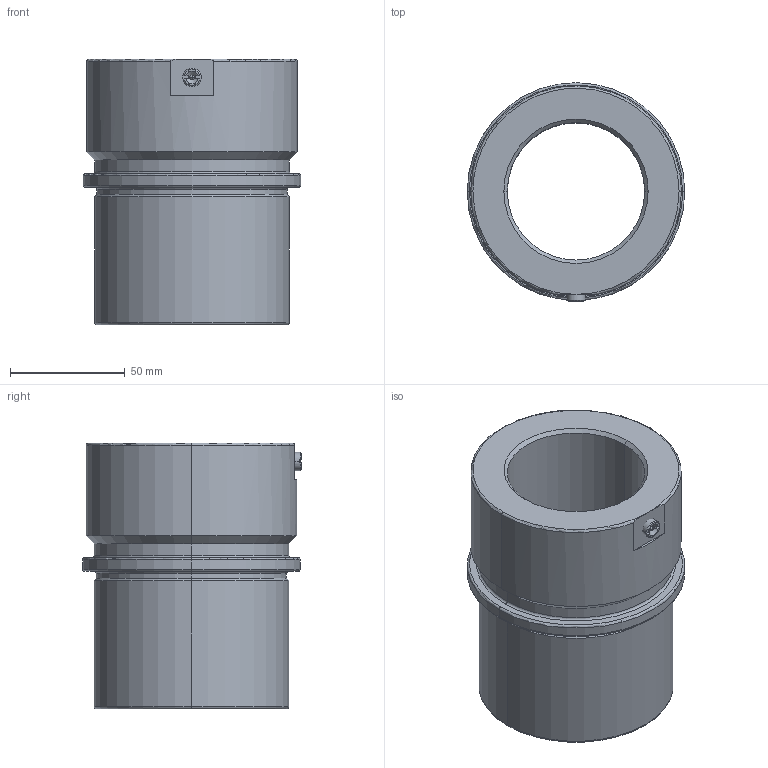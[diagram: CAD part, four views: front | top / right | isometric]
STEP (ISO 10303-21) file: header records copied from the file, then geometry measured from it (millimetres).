
FILE_DESCRIPTION(('CATIA V5 STEP Exchange'),'2;1');
FILE_NAME('C:\Users\Utente\Desktop\IO LAVORO\3D X SITO CF\X SITO\744\744-60.stp','2020-12-23T21:08:45+00:00',('none'),('none'),'CATIA Version 5 Release 20 GA (IN-10)','CATIA V5 STEP AP203','none');
FILE_SCHEMA(('CONFIG_CONTROL_DESIGN'));
Length unit declared in the file: millimetre
Products named in the file (1): 744-60
Bounding box: 95 x 95.5 x 116 mm (x, y, z)
Volume: 378038.8 mm3; surface area: 63766.7 mm2
Topology: 2 solids, 2 shells, 67 faces, 155 edges, 91 vertices
Faces by surface type: cylinder 16, plane 16, cone 16, torus 15, sphere 4
Entity records: 2036 total; most frequent: CARTESIAN_POINT 543, ORIENTED_EDGE 302, DIRECTION 266, AXIS2_PLACEMENT_3D 155, EDGE_CURVE 151, VERTEX_POINT 91, CIRCLE 87, EDGE_LOOP 74
